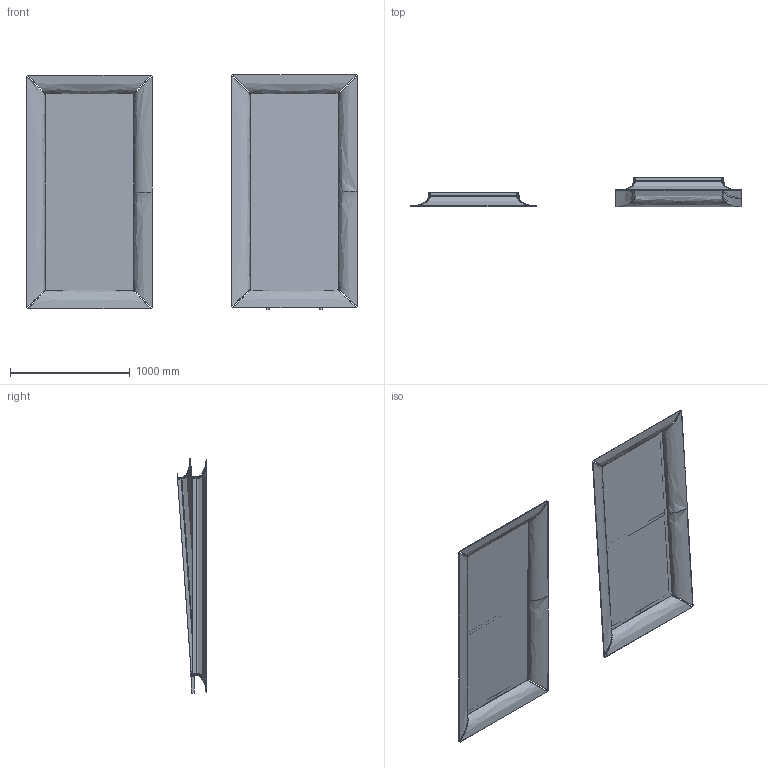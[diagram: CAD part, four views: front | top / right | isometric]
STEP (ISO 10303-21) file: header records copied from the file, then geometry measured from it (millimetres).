
FILE_DESCRIPTION(/* description */ (''),/* implementation_level */ '2;1');
FILE_NAME(/* name */ 'CAADRE~2',/* time_stamp */ '2018-10-08T14:41:03+02:00',/* author */ (''),/* organization */ (''),/* preprocessor_version */ 'ST-DEVELOPER v16.5',/* originating_system */ '',/* authorisation */ '');
FILE_SCHEMA (('CONFIG_CONTROL_DESIGN'));
Length unit declared in the file: millimetre
Products named in the file (1): Document
Bounding box: 2756.24 x 246.85 x 1954.32 mm (x, y, z)
Volume: 38065054.7 mm3; surface area: 10978487.8 mm2
Topology: 17 solids, 17 shells, 173 faces, 401 edges, 254 vertices
Faces by surface type: bspline 101, plane 72
Entity records: 8371 total; most frequent: CARTESIAN_POINT 5583, ORIENTED_EDGE 786, EDGE_CURVE 393, B_SPLINE_CURVE_WITH_KNOTS 393, VERTEX_POINT 246, EDGE_LOOP 175, ADVANCED_FACE 173, FACE_OUTER_BOUND 173
